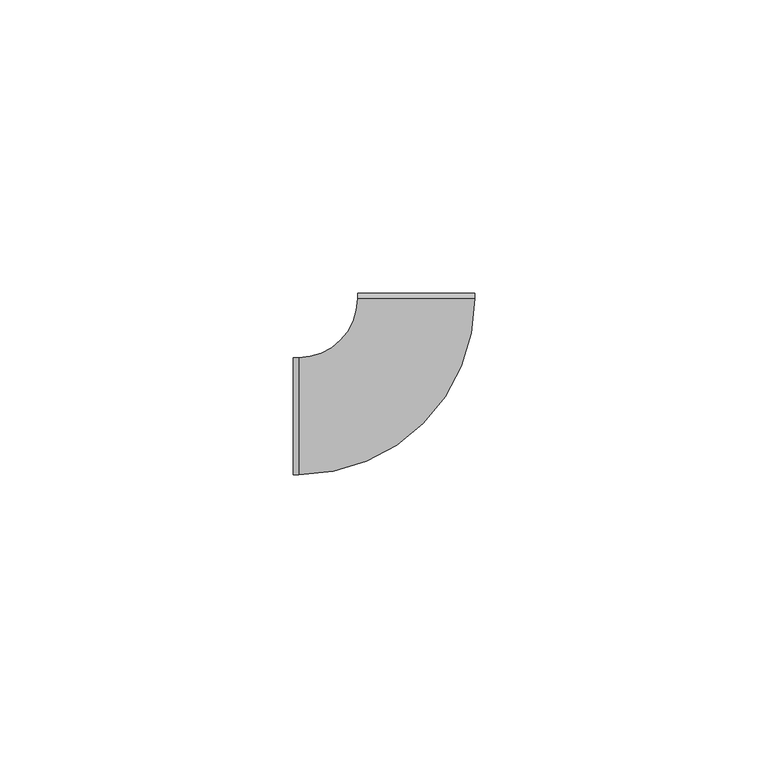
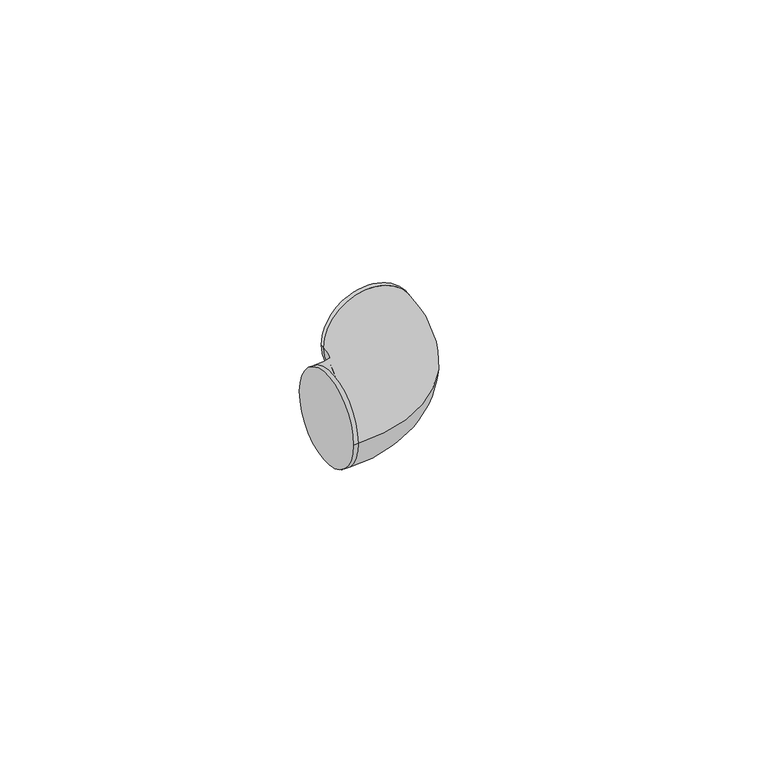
"""IFC4 building model written with IfcOpenShell, lengths in millimetres: cable carrier fitting geometry, ADSK_Поворот_Минимальный размер : Неспецифицируемый."""

from ifc_helpers import new_model, si_unit, point, frame, origin, place, context, project, spatial, circle_curve, ellipse_curve, trimmed, source, transform, mapped, element, save
from ifc_brep_helpers import plane_surface, cylinder_surface, revolved_surface, advanced_brep


def cable_carrier_fitting_71b1b563(model_context):
    return source(origin(), model_context, "Body", "AdvancedBrep", [
        advanced_brep(
        [(-21.0000009, -10.0, 0.0), (-21.0000009, 10.0, 0.0), (-20.0000009, -10.0, 0.0), (-20.0000009, 10.0, 0.0), (-10.0000009, 20.0000004, 0.0), (9.9999991, 20.0000013, 0.0), (9.9999991, 21.0000013, 0.0), (-10.0000009, 21.0000004, 0.0)],
        [
            (0, 1, circle_curve(frame((-21.0000009, 0.0, 0.0), z_axis=(-1.0, -4.92260399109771e-12, 0.0), x_axis=(-4.92260399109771e-12, 1.0, 0.0)), 10.0)),
            (1, 0, circle_curve(frame((-21.0000009, 0.0, 0.0), z_axis=(-1.0, -4.92260399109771e-12, 0.0), x_axis=(-4.92260399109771e-12, 1.0, 0.0)), 10.0)),
            (0, 2),
            (2, 3, circle_curve(frame((-20.0000009, 0.0, 0.0), z_axis=(-1.0, -4.92260399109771e-12, 0.0), x_axis=(-4.92260399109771e-12, 1.0, 0.0)), 10.0)),
            (3, 1),
            (3, 2, circle_curve(frame((-20.0000009, 0.0, 0.0), z_axis=(-1.0, -4.92260399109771e-12, 0.0), x_axis=(-4.92260399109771e-12, 1.0, 0.0)), 10.0)),
            (4, 3, circle_curve(frame((-20.0000009, 20.0, 0.0), z_axis=(0.0, 0.0, -1.0), x_axis=(0.0, -1.0, 0.0)), 10.0)),
            (2, 5, circle_curve(frame((-20.0000009, 20.0, 0.0), z_axis=(0.0, 0.0, 1.0), x_axis=(0.0, -1.0, 0.0)), 30.0)),
            (5, 4, circle_curve(frame((-9e-07, 20.0000009, 0.0), z_axis=(4.464283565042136e-08, -0.999999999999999, 0.0), x_axis=(-0.999999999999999, -4.464283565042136e-08, 0.0)), 10.0)),
            (4, 5, circle_curve(frame((-9e-07, 20.0000009, 0.0), z_axis=(4.464283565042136e-08, -0.999999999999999, 0.0), x_axis=(-0.999999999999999, -4.464283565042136e-08, 0.0)), 10.0)),
            (6, 7, circle_curve(frame((-9e-07, 21.0000009, 0.0), z_axis=(-4.46428354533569e-08, 0.999999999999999, 0.0), x_axis=(-0.999999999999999, -4.46428354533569e-08, 0.0)), 10.0)),
            (7, 6, circle_curve(frame((-9e-07, 21.0000009, 0.0), z_axis=(-4.46428354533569e-08, 0.999999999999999, 0.0), x_axis=(-0.999999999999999, -4.46428354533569e-08, 0.0)), 10.0)),
            (5, 6),
            (7, 4),
        ],
        [
            plane_surface(frame((-21.0000009, 0.0, 0.0), z_axis=(-1.0, -4.92260399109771e-12, 0.0), x_axis=(0.0, 0.0, 1.0))),
            cylinder_surface(frame((-21.0000009, 0.0, 0.0), z_axis=(-1.0, -4.92260399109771e-12, 0.0), x_axis=(-4.92260399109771e-12, 1.0, 0.0)), 10.0),
            revolved_surface(trimmed(ellipse_curve(frame((-20.0000009, 0.0, 0.0), z_axis=(-1.0, 0.0, 0.0), x_axis=(0.0, 1.0, 0.0)), 10.0, 10.0), [point((-20.0000009, -10.0, 0.0))], [point((-20.0000009, 10.0, 0.0))], True, "CARTESIAN"), (-20.0000009, 20.0, 0.0), (0.0, 0.0, 1.0)),
            revolved_surface(trimmed(ellipse_curve(frame((-20.0000009, 0.0, 0.0), z_axis=(-1.0, 0.0, 0.0), x_axis=(0.0, 1.0, 0.0)), 10.0, 10.0), [point((-20.0000009, 10.0, 0.0))], [point((-20.0000009, -10.0, 0.0))], True, "CARTESIAN"), (-20.0000009, 20.0, 0.0), (0.0, 0.0, 1.0)),
            plane_surface(frame((-9e-07, 21.0000009, 0.0), z_axis=(-4.46428354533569e-08, 0.999999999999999, 0.0), x_axis=(0.0, 0.0, 1.0))),
            cylinder_surface(frame((-9e-07, 20.0000009, 0.0), z_axis=(4.46428354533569e-08, -0.999999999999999, 0.0), x_axis=(-0.999999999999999, -4.46428354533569e-08, 0.0)), 10.0),
        ],
        [
            (0, [[1, 2]]),
            (1, [[-1, 3, 4, 5]]),
            (1, [[-2, -5, 6, -3]]),
            (2, [[7, -4, 8, 9]]),
            (3, [[-8, -6, -7, 10]]),
            (4, [[11, 12]]),
            (5, [[-9, 13, -12, 14]]),
            (5, [[-10, -14, -11, -13]]),
        ],
    ),
    ])


if __name__ == "__main__":
    model = new_model("IFC4")
    model_context = context("Model", 3, world=origin())
    ifc_project = project(units=[si_unit("LENGTHUNIT", "METRE", prefix="MILLI")], contexts=[model_context])
    site = spatial("IfcSite", under=ifc_project)
    building = spatial("IfcBuilding", under=site)
    placement = place(None, origin())
    cable_carrier_fitting_shape = cable_carrier_fitting_71b1b563(model_context)
    element("IfcCableCarrierFitting", 1, ObjectType="ADSK_Поворот_Минимальный размер : Неспецифицируемый", at=placement, inside=building, context=model_context, shape_type="MappedRepresentation", body=[
        mapped(cable_carrier_fitting_shape, transform((0.0, 0.0, 0.0), x_axis=(1.0, 0.0, 0.0), y_axis=(0.0, 1.0, 0.0), z_axis=(0.0, 0.0, 1.0))),
    ])
    save(model, "model.ifc")
